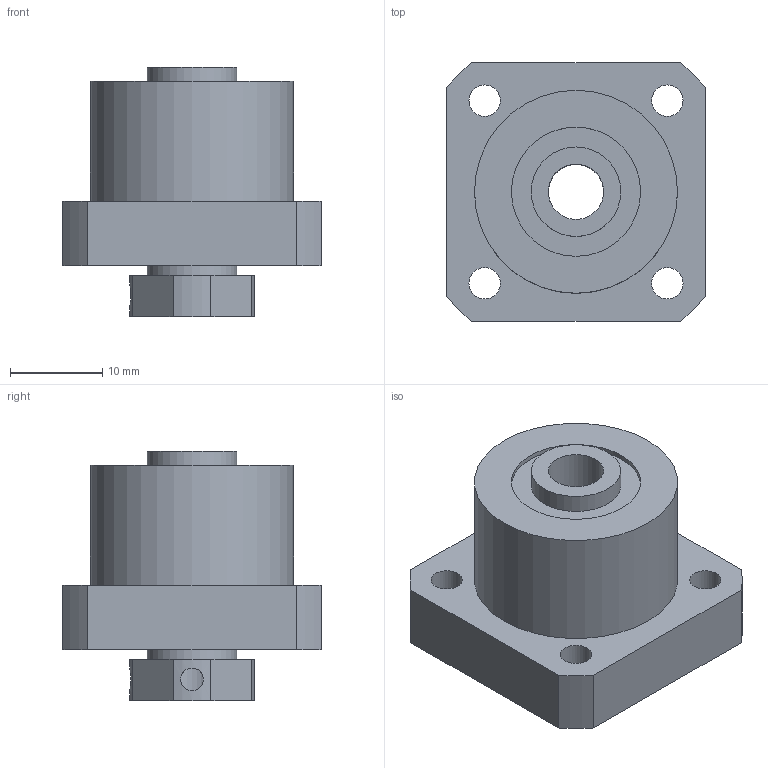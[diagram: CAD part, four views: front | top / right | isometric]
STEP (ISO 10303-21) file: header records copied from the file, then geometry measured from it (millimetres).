
FILE_DESCRIPTION(/* description */ (''),/* implementation_level */ '2;1');
FILE_NAME(/* name */ 'C:\Users\tenki620635\Desktop\官網\圖面\軸承座\3D\setp檔\FK06-Atype.stp',/* time_stamp */ '2020-12-18T19:56:30+08:00',/* author */ ('tenki620635'),/* organization */ (''),/* preprocessor_version */ 'ST-DEVELOPER v15.2',/* originating_system */ 'Autodesk Inventor 2014',/* authorisation */ '');
FILE_SCHEMA (('CONFIG_CONTROL_DESIGN','AUTOMOTIVE_DESIGN { 1 0 10303 214 3 1 1 }'));
Length unit declared in the file: millimetre
Products named in the file (1): FK06-Atype
Bounding box: 28 x 28 x 27 mm (x, y, z)
Volume: 9629.1 mm3; surface area: 4467.7 mm2
Topology: 1 solids, 1 shells, 42 faces, 97 edges, 66 vertices
Faces by surface type: cylinder 23, plane 19
Full cylindrical faces by diameter (mm): 2.459 x2, 3.4 x4, 6 x1, 6.5 x4, 9.7 x2, 14 x1, 22 x1
Entity records: 1295 total; most frequent: CARTESIAN_POINT 323, DIRECTION 202, ORIENTED_EDGE 160, AXIS2_PLACEMENT_3D 85, EDGE_LOOP 80, EDGE_CURVE 80, VERTEX_POINT 64, FACE_BOUND 46
